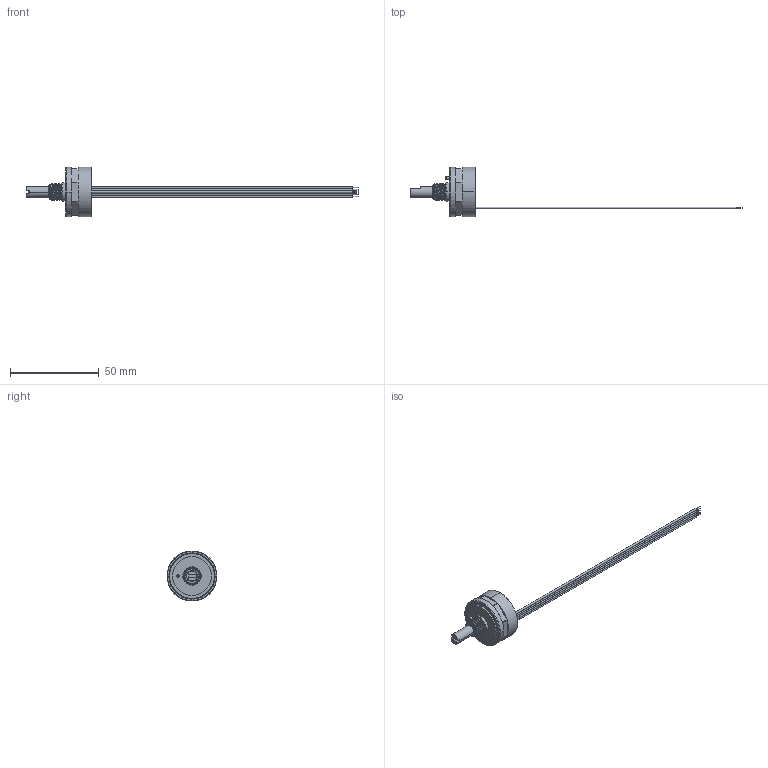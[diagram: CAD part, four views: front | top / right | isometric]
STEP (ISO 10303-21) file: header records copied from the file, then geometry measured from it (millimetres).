
FILE_DESCRIPTION (( 'STEP AP214' ), '1' );
FILE_NAME ('01_EN(x)28 B-montiert_00.STEP', '2011-08-29T09:42:47', ( 'mega' ), ( 'mega' ), 'SwSTEP 2.0', 'SolidWorks 2007', '' );
FILE_SCHEMA (( 'AUTOMOTIVE_DESIGN' ));
Length unit declared in the file: millimetre
Products named in the file (1): 01_EN(x)28 B-montiert_00
Bounding box: 186.9 x 28 x 28 mm (x, y, z)
Surface area: 6436.9 mm2 (no closed solid volume)
Topology: 0 solids, 12 shells, 139 faces, 722 edges, 602 vertices
Faces by surface type: plane 59, cylinder 52, torus 19, cone 6, bspline 3
Entity records: 10564 total; most frequent: CARTESIAN_POINT 3448, DIRECTION 1127, ORIENTED_EDGE 984, EDGE_CURVE 722, VERTEX_POINT 602, VECTOR 519, LINE 519, AXIS2_PLACEMENT_3D 304
